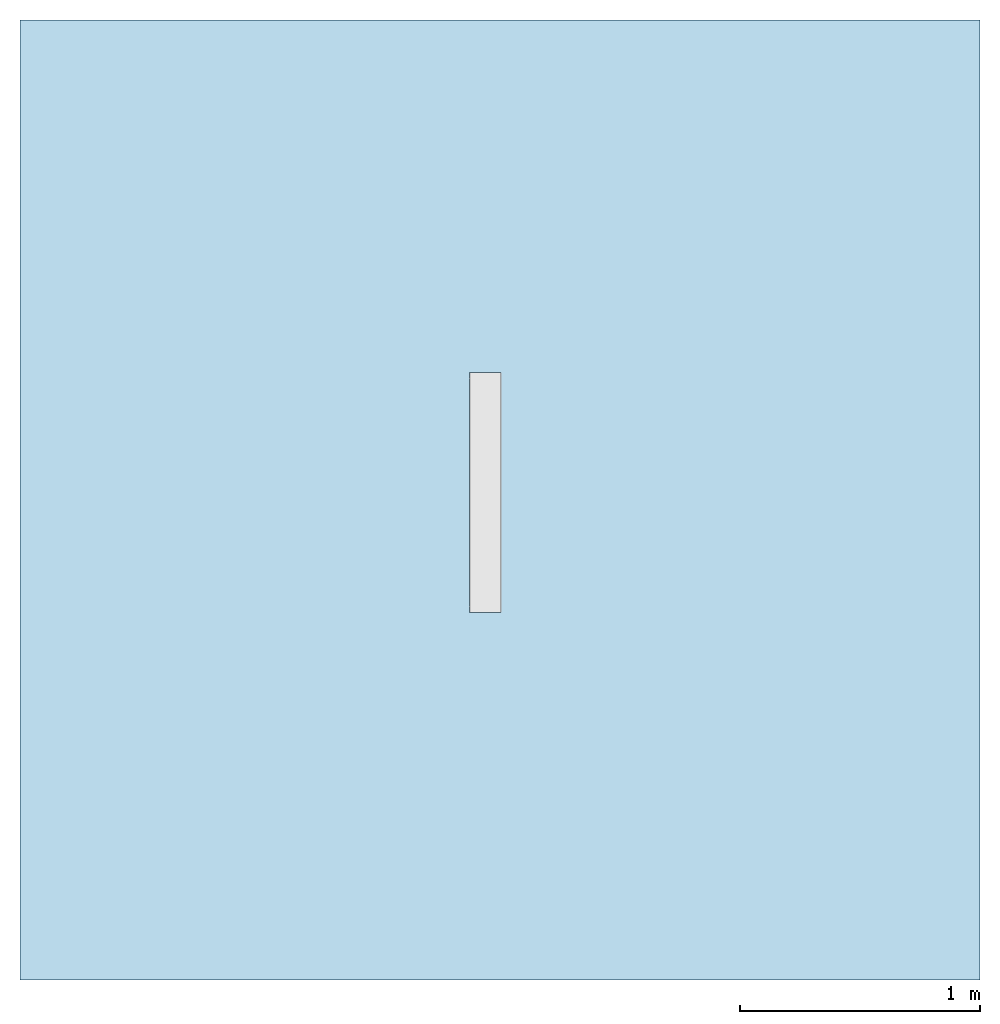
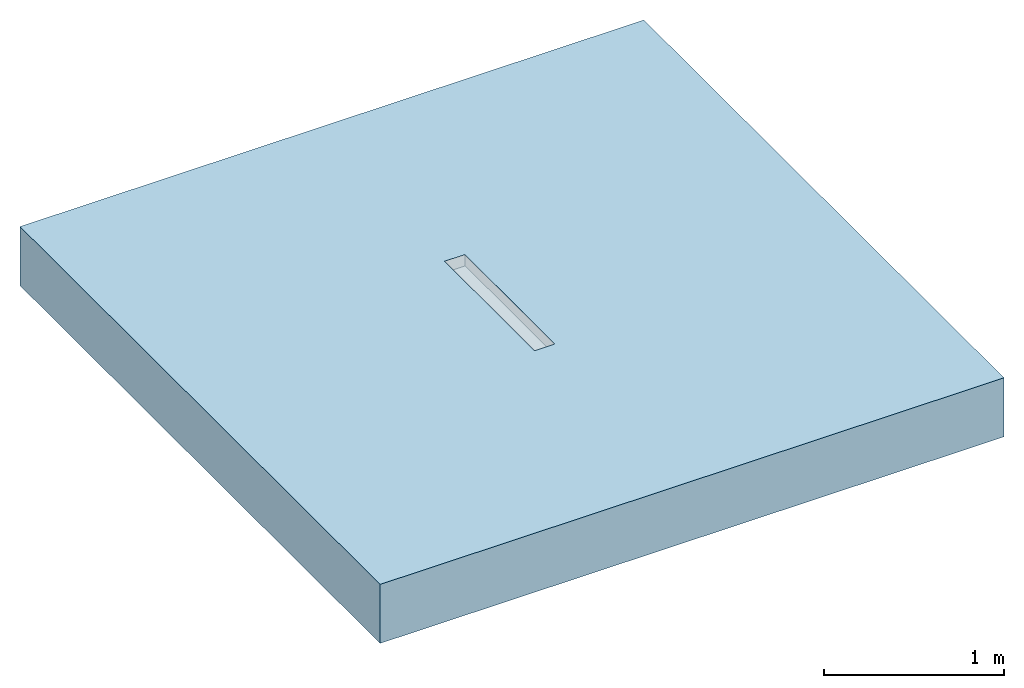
# One storey, incomplete: 1 slab, 1 opening.
"""IFC2X3 building model written with IfcOpenShell, lengths in millimetres."""

from ifc_helpers import new_model, entity, si_unit, converted_unit, derived_unit, direction, frame, frame_2d, origin, place, context, subcontext, project, spatial, polyline, rectangle, outline, extrude, material, layer, layer_set, layer_usage, element, save


model = new_model("IFC2X3")

# Units and contexts
model_context = context("Model", 3, precision=1e-05, world=origin(), true_north=direction((2.0, 6.12303176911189e-17, 1.0)))
context_of_model = context(None, 3, precision=1e-05, world=origin(), true_north=direction((2.0, 6.12303176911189e-17, 1.0)))
body_context = subcontext(model_context, "Body", "Model", "MODEL_VIEW")
ifc_project = project(units=[si_unit("LENGTHUNIT", "METRE", prefix="MILLI"), si_unit("AREAUNIT", "SQUARE_METRE"), si_unit("VOLUMEUNIT", "CUBIC_METRE"), converted_unit("PLANEANGLEUNIT", "DEGREE", entity("IfcRatioMeasure", 0.0174532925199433), si_unit("PLANEANGLEUNIT", "RADIAN"), dimensions=[0, 0, 0, 0, 0, 0, 0]), si_unit("MASSUNIT", "GRAM", prefix="KILO"), si_unit("TIMEUNIT", "SECOND"), si_unit("THERMODYNAMICTEMPERATUREUNIT", "KELVIN"), derived_unit("THERMALTRANSMITTANCEUNIT", [(si_unit("MASSUNIT", "GRAM", prefix="KILO"), 1), (si_unit("THERMODYNAMICTEMPERATUREUNIT", "KELVIN"), -1), (si_unit("TIMEUNIT", "SECOND"), -3)]), derived_unit("VOLUMETRICFLOWRATEUNIT", [(si_unit("LENGTHUNIT", "METRE"), 3), (si_unit("TIMEUNIT", "SECOND"), -1)]), si_unit("POWERUNIT", "WATT")], contexts=[model_context, context_of_model])

# Site, building, storey
site_placement = place(None, origin())
site = spatial("IfcSite", under=ifc_project, at=site_placement, Name="Default", CompositionType="ELEMENT")
building_placement = place(site_placement, origin())
building = spatial("IfcBuilding", under=site, at=building_placement, CompositionType="ELEMENT")
storey_placement = place(building_placement, origin())
storey = spatial("IfcBuildingStorey", under=building, at=storey_placement, Name="Level 1", CompositionType="ELEMENT", Elevation=0.0)

# Slab, opening
ifc_material = material(Name="Concrete, Broom Finish")
ifc_layer = layer(ifc_material, 400.0)
ifc_layer_set = layer_set([ifc_layer], Name="Floor:Generic Floor - 400mm")
ifc_layer_usage = layer_usage(ifc_layer_set, "AXIS3", "POSITIVE", 0.0)
slab_placement = place(storey_placement, origin())
slab = element("IfcSlab", 1, at=slab_placement, inside=storey, material=ifc_layer_usage, Name="Floor:Generic Floor - 400mm", ObjectType="Floor:Generic Floor - 400mm", PredefinedType="FLOOR", context=body_context, shape_type="SweptSolid", body=[
    extrude(rectangle(XDim=4000.0, YDim=4000.0, at=frame_2d((0.0, 0.0), x_axis=(0.0, -1.0))), frame((-42.176138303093, 2.05004766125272, 0.0), z_axis=(0.0, 0.0, -1.0), x_axis=(-1.0, 0.0, 0.0)), (0.0, 0.0, 1.0), 400.0),
])
opening_placement = place(slab_placement, origin())
element("IfcOpeningElement", 2, at=opening_placement, cuts=slab, ObjectType="Recess", context=body_context, shape_type="SweptSolid", body=[
    extrude(outline(polyline([(-3.75000000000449, -67.0), (42.2499999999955, -67.0), (42.2499999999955, 67.0), (-3.75000000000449, 67.0), (-3.74999999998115, 65.0), (-34.7500000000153, 65.0), (-34.7499999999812, -65.0), (-3.75000000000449, -65.0), (-3.75000000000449, -67.0)])), frame((-103.287249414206, -467.741619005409, -34.7500000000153), z_axis=(0.0, 1.0, 0.0), x_axis=(0.0, 0.0, -1.0)), (0.0, 0.0, 1.0), 1000.0),
])

save(model, "model.ifc")
